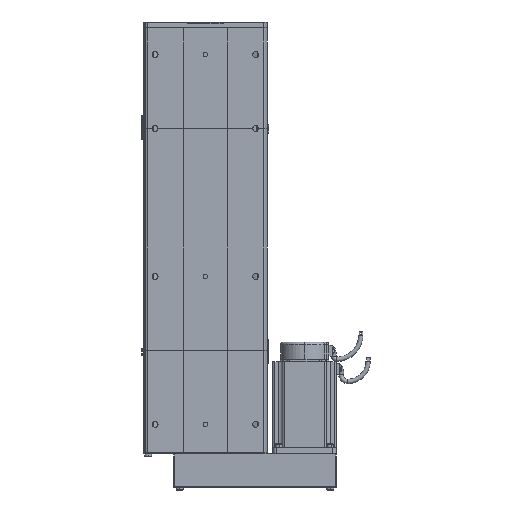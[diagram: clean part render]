
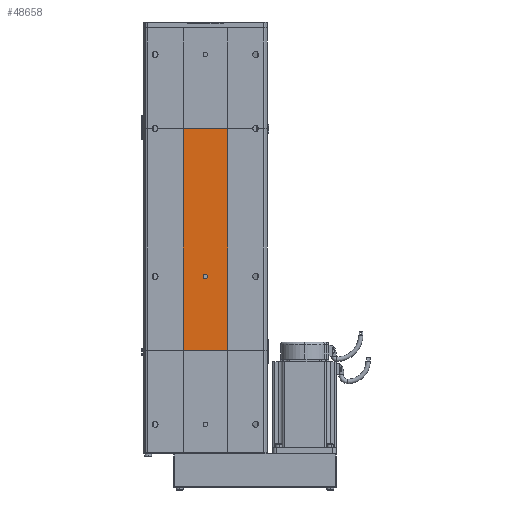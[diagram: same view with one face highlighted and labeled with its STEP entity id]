
A CAD part, front view. The second image highlights one B-rep face of the part: STEP entity #48658.
In plain terms, the highlighted planar face has unit normal (0, -1, 0).
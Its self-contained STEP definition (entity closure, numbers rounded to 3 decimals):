
#4901 = LINE ( 'NONE', #4926, #4925 ) ;
#4924 = DIRECTION ( 'NONE',  ( 0., 0., 1. ) ) ;
#4925 = VECTOR ( 'NONE', #4924, 1000. ) ;
#4926 = CARTESIAN_POINT ( 'NONE',  ( 30., -32.5, 0. ) ) ;
#4998 = DIRECTION ( 'NONE',  ( 0., 0., 1. ) ) ;
#4999 = VECTOR ( 'NONE', #4998, 1000. ) ;
#5154 = CARTESIAN_POINT ( 'NONE',  ( -30., -32.5, 0. ) ) ;
#5155 = LINE ( 'NONE', #5154, #4999 ) ;
#17393 = CARTESIAN_POINT ( 'NONE',  ( 0., -32.5, 103. ) ) ;
#17861 = DIRECTION ( 'NONE',  ( 0., 0., -1. ) ) ;
#17862 = DIRECTION ( 'NONE',  ( 0., -1., 0. ) ) ;
#17863 = AXIS2_PLACEMENT_3D ( 'NONE', #17897, #17862, #17861 ) ;
#17875 = CARTESIAN_POINT ( 'NONE',  ( 0., -32.5, 97. ) ) ;
#17897 = CARTESIAN_POINT ( 'NONE',  ( 0., -32.5, 100. ) ) ;
#17898 = CIRCLE ( 'NONE', #17863, 3. ) ;
#46300 = VERTEX_POINT ( 'NONE', #17393 ) ;
#46400 = VERTEX_POINT ( 'NONE', #17875 ) ;
#46404 = EDGE_CURVE ( 'NONE', #46300, #46400, #17898, .T. ) ;
#46783 = VERTEX_POINT ( 'NONE', #63483 ) ;
#46869 = VERTEX_POINT ( 'NONE', #57160 ) ;
#46951 = EDGE_CURVE ( 'NONE', #46869, #46783, #57535, .T. ) ;
#48317 = EDGE_CURVE ( 'NONE', #48349, #48350, #66159, .T. ) ;
#48349 = VERTEX_POINT ( 'NONE', #66086 ) ;
#48350 = VERTEX_POINT ( 'NONE', #66083 ) ;
#48658 = ADVANCED_FACE ( 'NONE', ( #66911, #66922 ), #66892, .F. ) ;
#48663 = EDGE_CURVE ( 'NONE', #46400, #46300, #66905, .T. ) ;
#48718 = EDGE_LOOP ( 'NONE', ( #49052, #49050 ) ) ;
#48852 = ORIENTED_EDGE ( 'NONE', *, *, #48317, .F. ) ;
#48876 = ORIENTED_EDGE ( 'NONE', *, *, #46951, .T. ) ;
#48879 = EDGE_CURVE ( 'NONE', #48349, #46869, #4901, .T. ) ;
#48987 = ORIENTED_EDGE ( 'NONE', *, *, #48879, .T. ) ;
#48988 = EDGE_CURVE ( 'NONE', #48350, #46783, #5155, .T. ) ;
#48990 = EDGE_LOOP ( 'NONE', ( #48876, #49045, #48852, #48987 ) ) ;
#49045 = ORIENTED_EDGE ( 'NONE', *, *, #48988, .F. ) ;
#49050 = ORIENTED_EDGE ( 'NONE', *, *, #46404, .F. ) ;
#49052 = ORIENTED_EDGE ( 'NONE', *, *, #48663, .F. ) ;
#57160 = CARTESIAN_POINT ( 'NONE',  ( 30., -32.5, 300. ) ) ;
#57475 = DIRECTION ( 'NONE',  ( -1., 0., 0. ) ) ;
#57476 = CARTESIAN_POINT ( 'NONE',  ( -30., -32.5, 300. ) ) ;
#57535 = LINE ( 'NONE', #57476, #57654 ) ;
#57654 = VECTOR ( 'NONE', #57475, 1000. ) ;
#63483 = CARTESIAN_POINT ( 'NONE',  ( -30., -32.5, 300. ) ) ;
#66083 = CARTESIAN_POINT ( 'NONE',  ( -30., -32.5, 0. ) ) ;
#66086 = CARTESIAN_POINT ( 'NONE',  ( 30., -32.5, 0. ) ) ;
#66159 = LINE ( 'NONE', #66165, #66163 ) ;
#66163 = VECTOR ( 'NONE', #66202, 1000. ) ;
#66165 = CARTESIAN_POINT ( 'NONE',  ( -30., -32.5, 0. ) ) ;
#66202 = DIRECTION ( 'NONE',  ( -1., 0., 0. ) ) ;
#66872 = DIRECTION ( 'NONE',  ( 0., 0., -1. ) ) ;
#66873 = DIRECTION ( 'NONE',  ( 0., -1., 0. ) ) ;
#66874 = CARTESIAN_POINT ( 'NONE',  ( 0., -32.5, 100. ) ) ;
#66882 = DIRECTION ( 'NONE',  ( 0., 0., 1. ) ) ;
#66892 = PLANE ( 'NONE',  #66915 ) ;
#66893 = AXIS2_PLACEMENT_3D ( 'NONE', #66874, #66873, #66872 ) ;
#66902 = CARTESIAN_POINT ( 'NONE',  ( -30., -32.5, 0. ) ) ;
#66905 = CIRCLE ( 'NONE', #66893, 3. ) ;
#66911 = FACE_BOUND ( 'NONE', #48718, .T. ) ;
#66915 = AXIS2_PLACEMENT_3D ( 'NONE', #66902, #66934, #66882 ) ;
#66922 = FACE_OUTER_BOUND ( 'NONE', #48990, .T. ) ;
#66934 = DIRECTION ( 'NONE',  ( 0., 1., 0. ) ) ;
